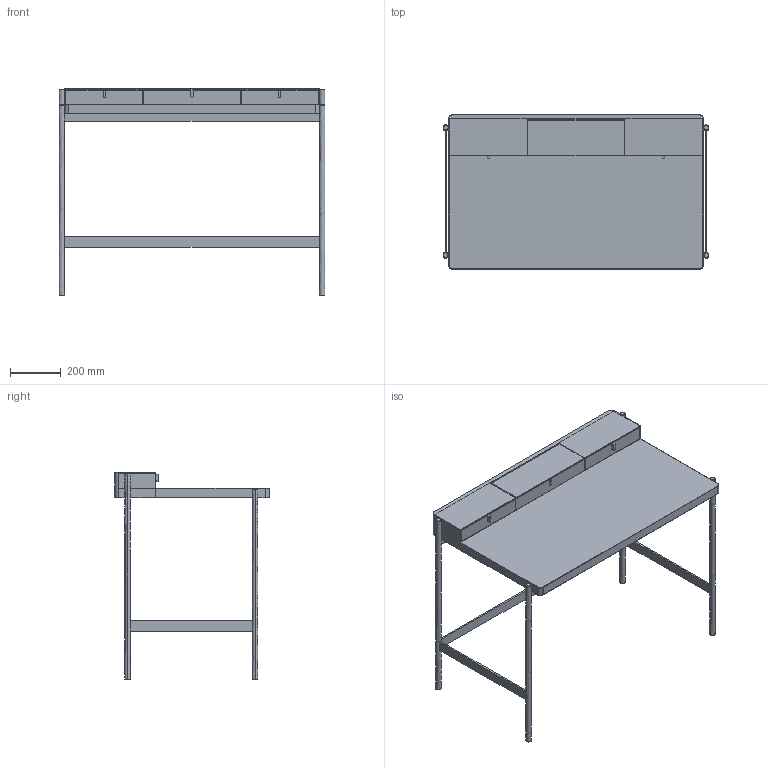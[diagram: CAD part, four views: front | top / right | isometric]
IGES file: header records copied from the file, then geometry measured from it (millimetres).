
Start section: Comment
Global section: file name: PS20.igs; native system:  By UGS Corp.; preprocessor: XPlus GENERIC/IGES 3.0; author: Author; organization: Title; date: 20200831.092214; units: inch
Bounding box: 1043.98 x 605 x 812 mm (x, y, z)
Surface area: 2699710.1 mm2 (no closed solid volume)
Topology: 0 solids, 0 shells, 153 faces, 854 edges, 854 vertices
Faces by surface type: bspline 153
